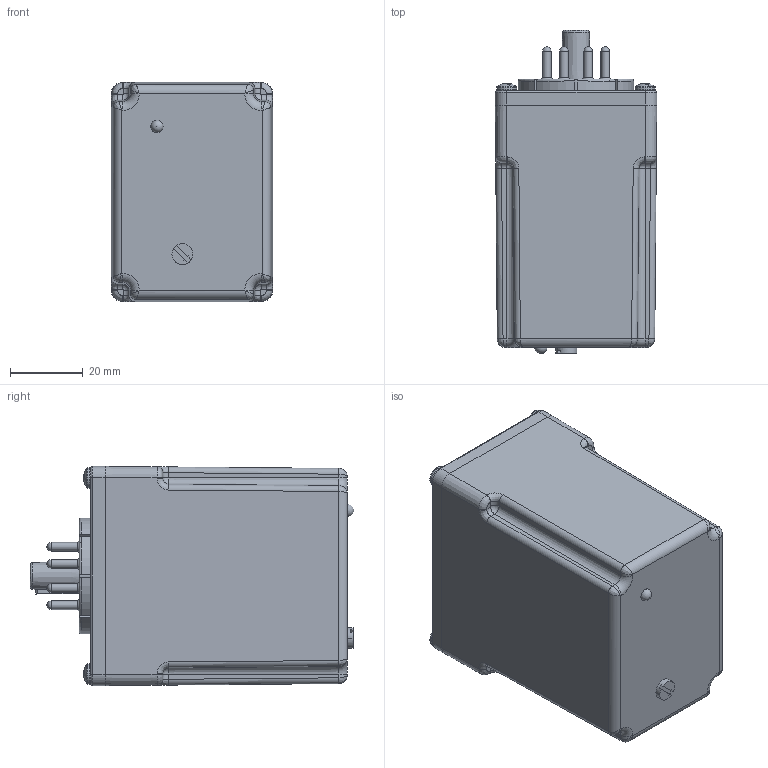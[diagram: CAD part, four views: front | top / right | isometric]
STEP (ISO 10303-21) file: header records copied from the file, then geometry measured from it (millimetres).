
FILE_DESCRIPTION(('FreeCAD Model'),'2;1');
FILE_NAME('Open CASCADE Shape Model','2023-06-06T13:07:12',(''),(''), 'Open CASCADE STEP processor 7.6','FreeCAD','Unknown');
FILE_SCHEMA(('AUTOMOTIVE_DESIGN { 1 0 10303 214 1 1 1 1 }'));
Products named in the file (1): Compound
Bounding box: 44.45 x 88.95 x 60.33 mm (x, y, z)
Surface area: 43593.5 mm2 (no closed solid volume)
Topology: 0 solids, 20 shells, 1861 faces, 4768 edges, 2957 vertices
Faces by surface type: plane 702, cylinder 684, bspline 200, torus 121, cone 57, sphere 57, revolution 40
Full cylindrical faces by diameter (mm): 0.254 x16, 1.257 x8, 1.714 x8, 1.905 x16, 2.362 x16, 2.464 x8, 3.175 x4, 4.191 x8, 7.925 x1
Entity records: 174929 total; most frequent: CARTESIAN_POINT 85238, DIRECTION 15340, ORIENTED_EDGE 9390, PCURVE 9390, DEFINITIONAL_REPRESENTATION 9390, LINE 9139, VECTOR 9139, EDGE_CURVE 4703
